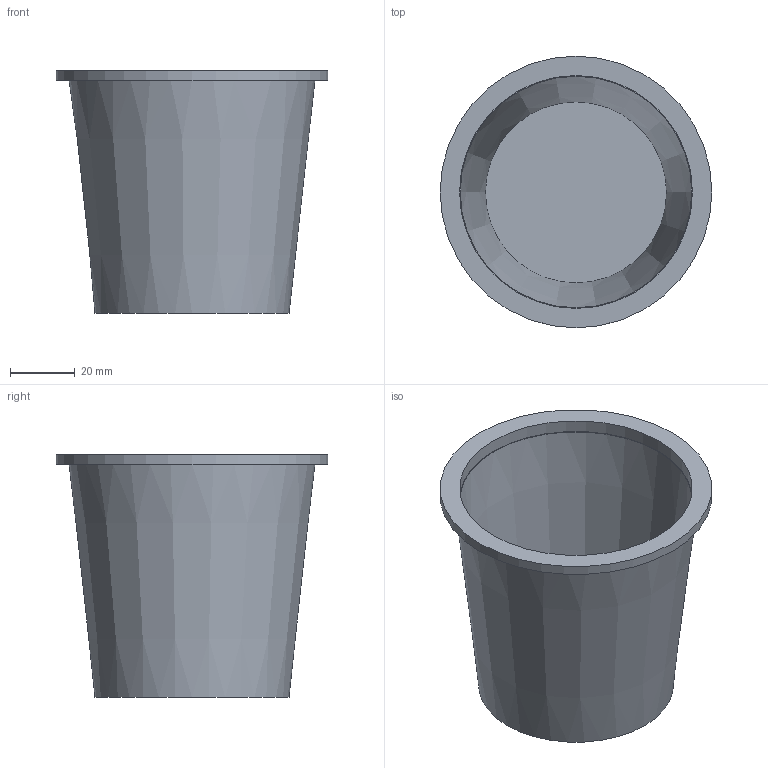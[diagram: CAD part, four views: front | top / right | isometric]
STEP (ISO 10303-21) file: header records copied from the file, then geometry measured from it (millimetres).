
FILE_DESCRIPTION(('Open CASCADE Model'),'2;1');
FILE_NAME('Open CASCADE Shape Model','2026-07-23T15:39:56',('Author'),( 'Open CASCADE'),'Open CASCADE STEP processor 7.9','build123d', 'Unknown');
FILE_SCHEMA(('AUTOMOTIVE_DESIGN { 1 0 10303 214 1 1 1 1 }'));
Length unit declared in the file: millimetre
Products named in the file (1): COMPOUND
Bounding box: 84 x 84 x 75 mm (x, y, z)
Volume: 38289.8 mm3; surface area: 39100.3 mm2
Topology: 1 solids, 1 shells, 9 faces, 12 edges, 8 vertices
Faces by surface type: plane 5, cylinder 2, cone 2
Full cylindrical faces by diameter (mm): 72 x1, 84 x1
Entity records: 360 total; most frequent: DIRECTION 64, CARTESIAN_POINT 54, ORIENTED_EDGE 24, PCURVE 24, DEFINITIONAL_REPRESENTATION 24, LINE 20, VECTOR 20, AXIS2_PLACEMENT_3D 18
